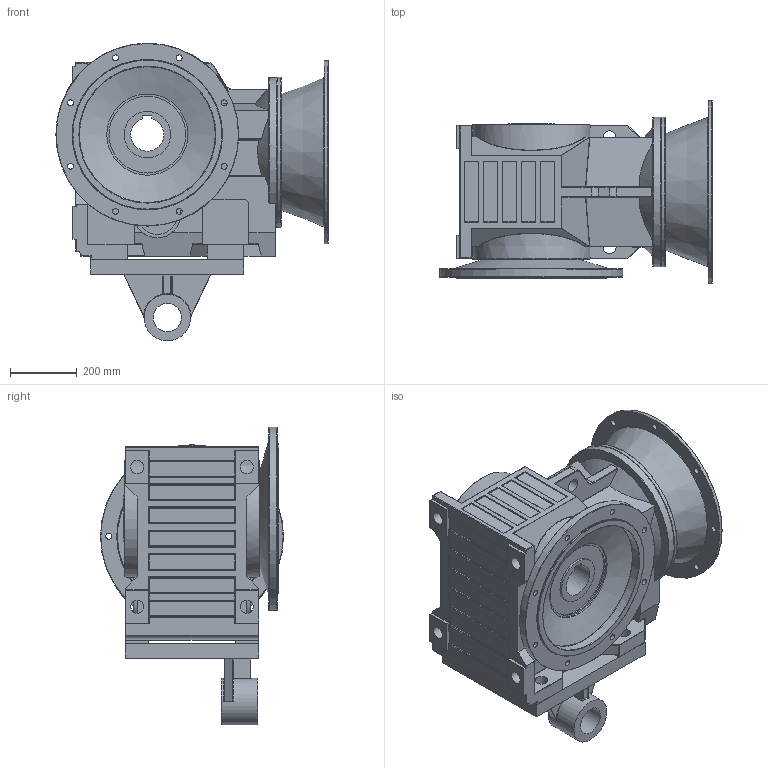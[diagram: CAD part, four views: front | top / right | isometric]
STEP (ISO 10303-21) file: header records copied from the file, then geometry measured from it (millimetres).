
FILE_DESCRIPTION((''),'2;1');
FILE_NAME('F:\PAWEŁ\ZLECENIA\2011 DualSystem\Przekładnie DK\001 Modele\DKAB120_\DK_120_STEP\DK_B_120_AT_AF_280S_B5_L153,5.stp','2012-06-26T19:32:45',('admin'),(''),'Autodesk Inventor 2009','Autodesk Inventor 2009','');
FILE_SCHEMA(('AUTOMOTIVE_DESIGN { 1 0 10303 214 1 1 1 1 }'));
Length unit declared in the file: millimetre
Products named in the file (5): DK_B_120_AT_AF_280S_B5_L153,5 (Poziom szczegółów1); DK_B_120; 280S_B5_L153,5; AF_F_120; AT_120
Assembly tree (4 placements, depth 2):
  DK_B_120_AT_AF_280S_B5_L153,5 (Poziom szczegółów1)
    DK_B_120
    280S_B5_L153,5
    AF_F_120
    AT_120
Bounding box: 818.5 x 550 x 895 mm (x, y, z)
Volume: 123870929.2 mm3; surface area: 3994221.9 mm2
Topology: 4 solids, 4 shells, 696 faces, 1697 edges, 1000 vertices
Faces by surface type: cylinder 279, bspline 189, plane 184, torus 28, sphere 8, cone 8
Full cylindrical faces by diameter (mm): 39 x8, 40 x1, 85 x1, 95 x1, 120 x1, 140 x2, 230.857 x1, 244 x1, 360 x1, 410 x1, 437.137 x1, 450 x4, 550 x2
Entity records: 28027 total; most frequent: CARTESIAN_POINT 12450, DIRECTION 3163, ORIENTED_EDGE 3152, EDGE_CURVE 1576, AXIS2_PLACEMENT_3D 1205, VERTEX_POINT 986, EDGE_LOOP 858, VECTOR 753
